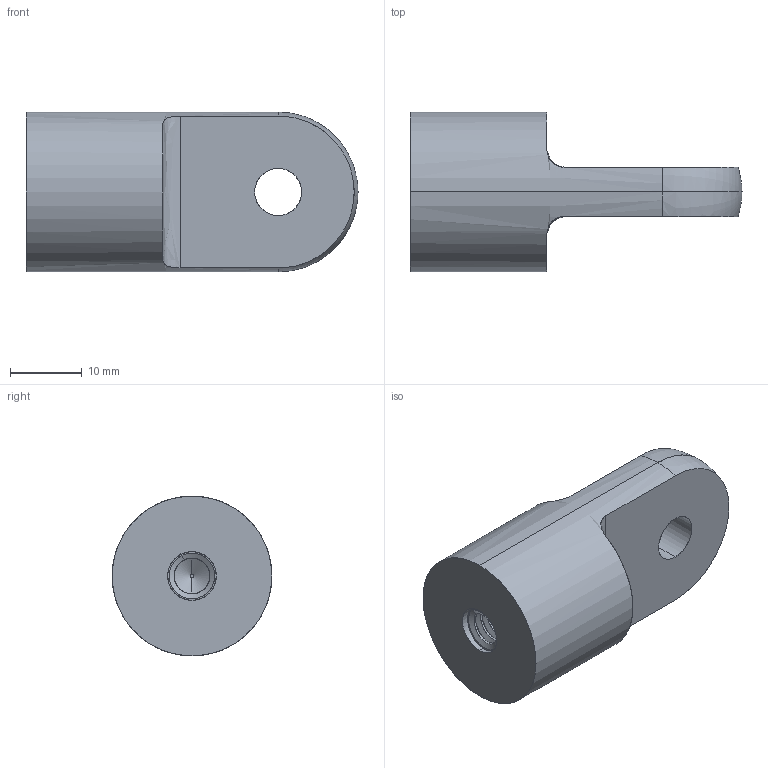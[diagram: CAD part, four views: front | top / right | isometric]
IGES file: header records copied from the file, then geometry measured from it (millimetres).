
Start section: SolidWorks IGES file using analytic representation for surfaces
Global section: file name: \\SERVER3\Design\_New Design Drive Folder List\_Design Vault\AAI\Modular Round Tube Connectors\Solidworks Models\STP Files\12202013\0.750 Inch Modular Connectors\DRP-002-0531-00.IGS; native system: SolidWorks 2013; preprocessor: SolidWorks 2013; author: tbraun; date: 131220.123623; units: inch
Bounding box: 46.18 x 22.23 x 22.23 mm (x, y, z)
Surface area: 4217.1 mm2 (no closed solid volume)
Topology: 0 solids, 0 shells, 28 faces, 410 edges, 409 vertices
Faces by surface type: bspline 16, revolution 12
